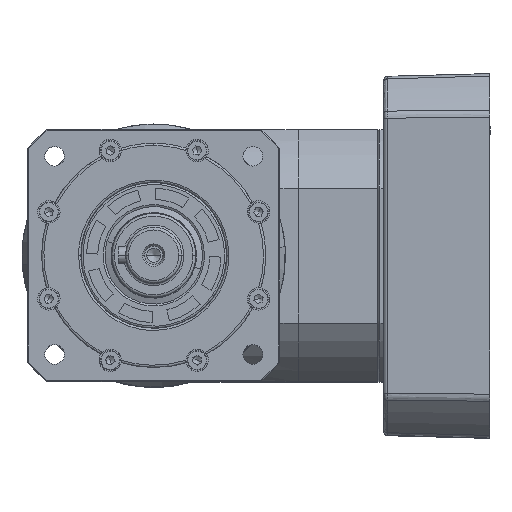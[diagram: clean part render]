
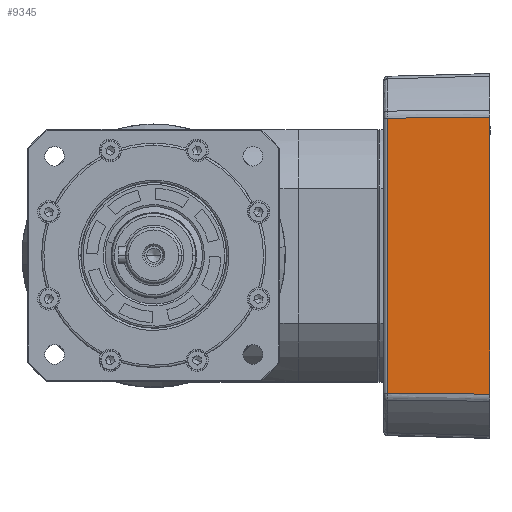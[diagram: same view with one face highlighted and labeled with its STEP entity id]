
A CAD part, top view. The second image highlights one B-rep face of the part: STEP entity #9345.
In plain terms, the highlighted planar face has unit normal (-0.026, 0, 1) as drawn and (0, -1, -0.026) by its records, which use the part's own axes.
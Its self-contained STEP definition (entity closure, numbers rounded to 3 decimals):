
#375 = ORIENTED_EDGE ( 'NONE', *, *, #8509, .F. ) ;
#2247 = ORIENTED_EDGE ( 'NONE', *, *, #10173, .T. ) ;
#4659 = DIRECTION ( 'NONE',  ( -1., 0., 0. ) ) ;
#7675 = VERTEX_POINT ( 'NONE', #78078 ) ;
#8509 = EDGE_CURVE ( 'NONE', #18031, #18365, #54880, .T. ) ;
#9345 = ADVANCED_FACE ( 'NONE', ( #71293 ), #72970, .T. ) ;
#10173 = EDGE_CURVE ( 'NONE', #18031, #17756, #21434, .T. ) ;
#13675 = VECTOR ( 'NONE', #19265, 1000. ) ;
#17756 = VERTEX_POINT ( 'NONE', #82991 ) ;
#18031 = VERTEX_POINT ( 'NONE', #38474 ) ;
#18365 = VERTEX_POINT ( 'NONE', #51646 ) ;
#19265 = DIRECTION ( 'NONE',  ( -0.009, -0.026, 1. ) ) ;
#20365 = CARTESIAN_POINT ( 'NONE',  ( -50.806, -65., 43. ) ) ;
#21434 = LINE ( 'NONE', #74000, #56639 ) ;
#27043 = DIRECTION ( 'NONE',  ( 0., 0.026, -1. ) ) ;
#29305 = ORIENTED_EDGE ( 'NONE', *, *, #54229, .T. ) ;
#37252 = VECTOR ( 'NONE', #4659, 1000. ) ;
#38474 = CARTESIAN_POINT ( 'NONE',  ( 49.069, -64.043, 6.461 ) ) ;
#43779 = DIRECTION ( 'NONE',  ( -1., 0., 0. ) ) ;
#43867 = LINE ( 'NONE', #83354, #79005 ) ;
#44249 = CARTESIAN_POINT ( 'NONE',  ( 0., -64.043, 6.461 ) ) ;
#44381 = ORIENTED_EDGE ( 'NONE', *, *, #81928, .F. ) ;
#51646 = CARTESIAN_POINT ( 'NONE',  ( -49.069, -64.043, 6.461 ) ) ;
#54229 = EDGE_CURVE ( 'NONE', #17756, #7675, #43867, .T. ) ;
#54880 = LINE ( 'NONE', #44249, #37252 ) ;
#56639 = VECTOR ( 'NONE', #80640, 1000. ) ;
#58971 = EDGE_LOOP ( 'NONE', ( #44381, #375, #2247, #29305 ) ) ;
#65565 = CARTESIAN_POINT ( 'NONE',  ( -49.409, -65., 43. ) ) ;
#66617 = DIRECTION ( 'NONE',  ( 0., -1., -0.026 ) ) ;
#71293 = FACE_OUTER_BOUND ( 'NONE', #58971, .T. ) ;
#72970 = PLANE ( 'NONE',  #83733 ) ;
#74000 = CARTESIAN_POINT ( 'NONE',  ( 49.069, -64.043, 6.461 ) ) ;
#78078 = CARTESIAN_POINT ( 'NONE',  ( -49.409, -65., 43. ) ) ;
#79005 = VECTOR ( 'NONE', #43779, 1000. ) ;
#80640 = DIRECTION ( 'NONE',  ( 0.009, -0.026, 1. ) ) ;
#81895 = LINE ( 'NONE', #65565, #13675 ) ;
#81928 = EDGE_CURVE ( 'NONE', #18365, #7675, #81895, .T. ) ;
#82991 = CARTESIAN_POINT ( 'NONE',  ( 49.409, -65., 43. ) ) ;
#83354 = CARTESIAN_POINT ( 'NONE',  ( -50.806, -65., 43. ) ) ;
#83733 = AXIS2_PLACEMENT_3D ( 'NONE', #20365, #66617, #27043 ) ;
